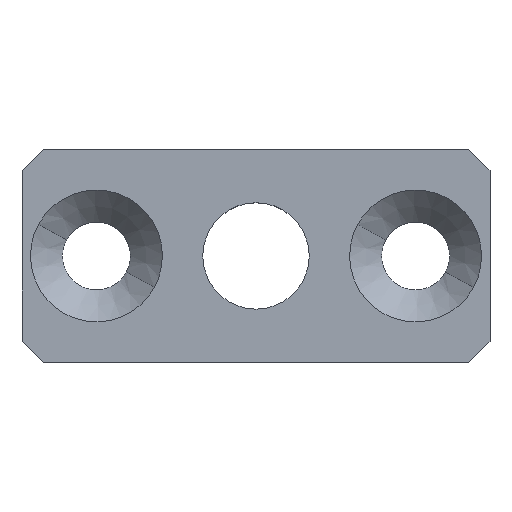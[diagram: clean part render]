
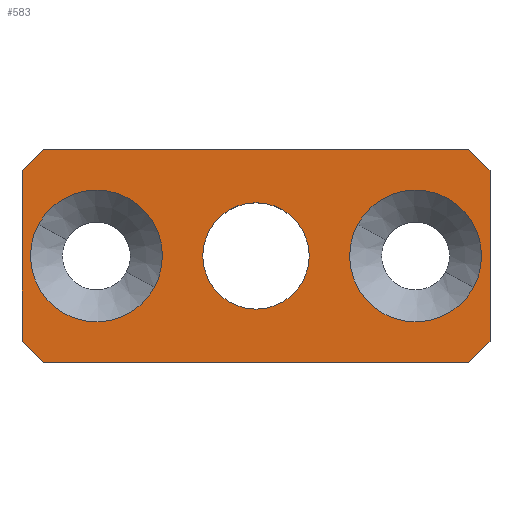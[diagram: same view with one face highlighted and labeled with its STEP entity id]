
A CAD part, top view. The second image highlights one B-rep face of the part: STEP entity #583.
In plain terms, the highlighted planar face has unit normal (0, 0, 1).
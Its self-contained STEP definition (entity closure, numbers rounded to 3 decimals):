
#39=AXIS2_PLACEMENT_3D('Circle Axis2P3D',#37,#38,$) ;
#82=AXIS2_PLACEMENT_3D('Circle Axis2P3D',#80,#81,$) ;
#230=AXIS2_PLACEMENT_3D('Circle Axis2P3D',#228,#229,$) ;
#265=AXIS2_PLACEMENT_3D('Circle Axis2P3D',#263,#264,$) ;
#287=AXIS2_PLACEMENT_3D('Circle Axis2P3D',#285,#286,$) ;
#314=AXIS2_PLACEMENT_3D('Circle Axis2P3D',#312,#313,$) ;
#554=AXIS2_PLACEMENT_3D('Plane Axis2P3D',#551,#552,#553) ;
#37=CARTESIAN_POINT('Axis2P3D Location',(7.5,0.,2.)) ;
#41=CARTESIAN_POINT('Vertex',(4.779,1.486,2.)) ;
#43=CARTESIAN_POINT('Vertex',(10.221,-1.486,2.)) ;
#80=CARTESIAN_POINT('Axis2P3D Location',(7.5,0.,2.)) ;
#228=CARTESIAN_POINT('Axis2P3D Location',(0.,0.,2.)) ;
#232=CARTESIAN_POINT('Vertex',(2.5,0.,2.)) ;
#234=CARTESIAN_POINT('Vertex',(-2.5,0.,2.)) ;
#263=CARTESIAN_POINT('Axis2P3D Location',(0.,0.,2.)) ;
#285=CARTESIAN_POINT('Axis2P3D Location',(-7.5,0.,2.)) ;
#289=CARTESIAN_POINT('Vertex',(-4.779,-1.486,2.)) ;
#291=CARTESIAN_POINT('Vertex',(-10.221,1.486,2.)) ;
#312=CARTESIAN_POINT('Axis2P3D Location',(-7.5,0.,2.)) ;
#336=CARTESIAN_POINT('Vertex',(11.,4.,2.)) ;
#350=CARTESIAN_POINT('Vertex',(10.,5.,2.)) ;
#353=CARTESIAN_POINT('Line Origine',(10.5,4.5,2.)) ;
#376=CARTESIAN_POINT('Vertex',(11.,-4.,2.)) ;
#384=CARTESIAN_POINT('Line Origine',(11.,0.,2.)) ;
#407=CARTESIAN_POINT('Vertex',(10.,-5.,2.)) ;
#415=CARTESIAN_POINT('Line Origine',(10.5,-4.5,2.)) ;
#438=CARTESIAN_POINT('Vertex',(-10.,5.,2.)) ;
#441=CARTESIAN_POINT('Line Origine',(0.,5.,2.)) ;
#474=CARTESIAN_POINT('Vertex',(-11.,4.,2.)) ;
#477=CARTESIAN_POINT('Line Origine',(-10.5,4.5,2.)) ;
#500=CARTESIAN_POINT('Vertex',(-10.,-5.,2.)) ;
#508=CARTESIAN_POINT('Line Origine',(0.,-5.,2.)) ;
#531=CARTESIAN_POINT('Vertex',(-11.,-4.,2.)) ;
#534=CARTESIAN_POINT('Line Origine',(-11.,0.,2.)) ;
#551=CARTESIAN_POINT('Axis2P3D Location',(0.,0.,2.)) ;
#556=CARTESIAN_POINT('Line Origine',(-10.5,-4.5,2.)) ;
#38=DIRECTION('Axis2P3D Direction',(-0.,0.,1.)) ;
#81=DIRECTION('Axis2P3D Direction',(-0.,0.,1.)) ;
#229=DIRECTION('Axis2P3D Direction',(0.,0.,1.)) ;
#264=DIRECTION('Axis2P3D Direction',(0.,0.,1.)) ;
#286=DIRECTION('Axis2P3D Direction',(0.,0.,1.)) ;
#313=DIRECTION('Axis2P3D Direction',(0.,0.,1.)) ;
#354=DIRECTION('Vector Direction',(0.707,-0.707,0.)) ;
#385=DIRECTION('Vector Direction',(0.,-1.,0.)) ;
#416=DIRECTION('Vector Direction',(0.707,0.707,0.)) ;
#442=DIRECTION('Vector Direction',(1.,0.,0.)) ;
#478=DIRECTION('Vector Direction',(-0.707,-0.707,0.)) ;
#509=DIRECTION('Vector Direction',(-1.,0.,0.)) ;
#535=DIRECTION('Vector Direction',(0.,1.,0.)) ;
#552=DIRECTION('Axis2P3D Direction',(0.,0.,1.)) ;
#553=DIRECTION('Axis2P3D XDirection',(1.,0.,0.)) ;
#557=DIRECTION('Vector Direction',(0.707,-0.707,0.)) ;
#355=VECTOR('Line Direction',#354,1.) ;
#386=VECTOR('Line Direction',#385,1.) ;
#417=VECTOR('Line Direction',#416,1.) ;
#443=VECTOR('Line Direction',#442,1.) ;
#479=VECTOR('Line Direction',#478,1.) ;
#510=VECTOR('Line Direction',#509,1.) ;
#536=VECTOR('Line Direction',#535,1.) ;
#558=VECTOR('Line Direction',#557,1.) ;
#562=ORIENTED_EDGE('',*,*,#512,.T.) ;
#563=ORIENTED_EDGE('',*,*,#419,.F.) ;
#564=ORIENTED_EDGE('',*,*,#388,.T.) ;
#565=ORIENTED_EDGE('',*,*,#357,.F.) ;
#566=ORIENTED_EDGE('',*,*,#445,.T.) ;
#567=ORIENTED_EDGE('',*,*,#481,.F.) ;
#568=ORIENTED_EDGE('',*,*,#538,.T.) ;
#569=ORIENTED_EDGE('',*,*,#560,.F.) ;
#572=ORIENTED_EDGE('',*,*,#84,.F.) ;
#573=ORIENTED_EDGE('',*,*,#45,.F.) ;
#576=ORIENTED_EDGE('',*,*,#316,.F.) ;
#577=ORIENTED_EDGE('',*,*,#293,.F.) ;
#580=ORIENTED_EDGE('',*,*,#267,.F.) ;
#581=ORIENTED_EDGE('',*,*,#236,.F.) ;
#574=FACE_BOUND('',#571,.T.) ;
#578=FACE_BOUND('',#575,.T.) ;
#582=FACE_BOUND('',#579,.T.) ;
#583=ADVANCED_FACE('\X2\96F64EF651E04F554F53\X0\',(#570,#574,#578,#582),#555,.T.) ;
#40=CIRCLE('generated circle',#39,3.1) ;
#83=CIRCLE('generated circle',#82,3.1) ;
#231=CIRCLE('generated circle',#230,2.5) ;
#266=CIRCLE('generated circle',#265,2.5) ;
#288=CIRCLE('generated circle',#287,3.1) ;
#315=CIRCLE('generated circle',#314,3.1) ;
#45=EDGE_CURVE('',#42,#44,#40,.T.) ;
#84=EDGE_CURVE('',#44,#42,#83,.T.) ;
#236=EDGE_CURVE('',#233,#235,#231,.T.) ;
#267=EDGE_CURVE('',#235,#233,#266,.T.) ;
#293=EDGE_CURVE('',#290,#292,#288,.T.) ;
#316=EDGE_CURVE('',#292,#290,#315,.T.) ;
#357=EDGE_CURVE('',#351,#337,#356,.T.) ;
#388=EDGE_CURVE('',#377,#337,#387,.F.) ;
#419=EDGE_CURVE('',#377,#408,#418,.F.) ;
#445=EDGE_CURVE('',#351,#439,#444,.F.) ;
#481=EDGE_CURVE('',#475,#439,#480,.F.) ;
#512=EDGE_CURVE('',#501,#408,#511,.F.) ;
#538=EDGE_CURVE('',#475,#532,#537,.F.) ;
#560=EDGE_CURVE('',#501,#532,#559,.F.) ;
#561=EDGE_LOOP('',(#562,#563,#564,#565,#566,#567,#568,#569)) ;
#571=EDGE_LOOP('',(#572,#573)) ;
#575=EDGE_LOOP('',(#576,#577)) ;
#579=EDGE_LOOP('',(#580,#581)) ;
#570=FACE_OUTER_BOUND('',#561,.T.) ;
#356=LINE('Line',#353,#355) ;
#387=LINE('Line',#384,#386) ;
#418=LINE('Line',#415,#417) ;
#444=LINE('Line',#441,#443) ;
#480=LINE('Line',#477,#479) ;
#511=LINE('Line',#508,#510) ;
#537=LINE('Line',#534,#536) ;
#559=LINE('Line',#556,#558) ;
#555=PLANE('Plane',#554) ;
#42=VERTEX_POINT('',#41) ;
#44=VERTEX_POINT('',#43) ;
#233=VERTEX_POINT('',#232) ;
#235=VERTEX_POINT('',#234) ;
#290=VERTEX_POINT('',#289) ;
#292=VERTEX_POINT('',#291) ;
#337=VERTEX_POINT('',#336) ;
#351=VERTEX_POINT('',#350) ;
#377=VERTEX_POINT('',#376) ;
#408=VERTEX_POINT('',#407) ;
#439=VERTEX_POINT('',#438) ;
#475=VERTEX_POINT('',#474) ;
#501=VERTEX_POINT('',#500) ;
#532=VERTEX_POINT('',#531) ;
